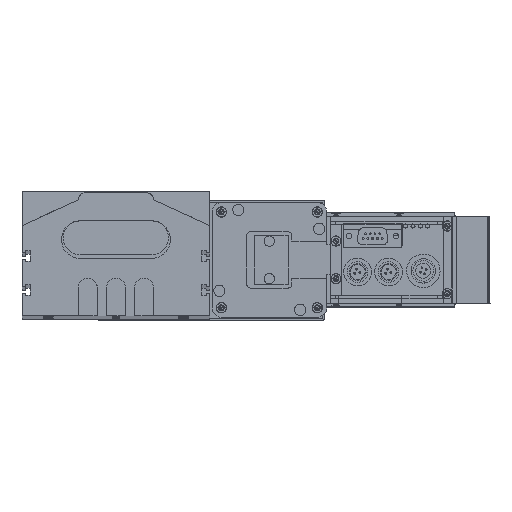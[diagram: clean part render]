
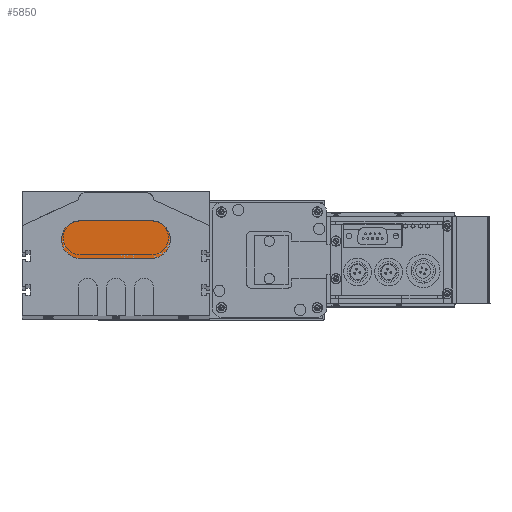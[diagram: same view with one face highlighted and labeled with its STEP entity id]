
A CAD part, top view. The second image highlights one B-rep face of the part: STEP entity #5850.
In plain terms, the highlighted planar face has unit normal (0, 0, 1).
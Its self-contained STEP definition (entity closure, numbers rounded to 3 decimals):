
#5765 = EDGE_CURVE ( 'NONE', #5834, #5817, #18186, .T. ) ;
#5817 = VERTEX_POINT ( 'NONE', #18200 ) ;
#5834 = VERTEX_POINT ( 'NONE', #18187 ) ;
#5839 = EDGE_CURVE ( 'NONE', #5817, #5843, #18242, .T. ) ;
#5843 = VERTEX_POINT ( 'NONE', #18232 ) ;
#5850 = ADVANCED_FACE ( 'NONE', ( #18243 ), #18223, .T. ) ;
#5851 = ORIENTED_EDGE ( 'NONE', *, *, #5865, .T. ) ;
#5854 = ORIENTED_EDGE ( 'NONE', *, *, #5765, .T. ) ;
#5858 = ORIENTED_EDGE ( 'NONE', *, *, #5877, .T. ) ;
#5863 = EDGE_CURVE ( 'NONE', #37558, #5884, #18287, .T. ) ;
#5865 = EDGE_CURVE ( 'NONE', #5884, #5834, #18275, .T. ) ;
#5876 = EDGE_LOOP ( 'NONE', ( #5854, #5927, #5858, #5880, #5851 ) ) ;
#5877 = EDGE_CURVE ( 'NONE', #5843, #37558, #18259, .T. ) ;
#5880 = ORIENTED_EDGE ( 'NONE', *, *, #5863, .T. ) ;
#5884 = VERTEX_POINT ( 'NONE', #18320 ) ;
#5927 = ORIENTED_EDGE ( 'NONE', *, *, #5839, .T. ) ;
#16330 = VECTOR ( 'NONE', #16875, 1000. ) ;
#16875 = DIRECTION ( 'NONE',  ( 1., 0., 0. ) ) ;
#18165 = DIRECTION ( 'NONE',  ( 1., 0., 0. ) ) ;
#18166 = DIRECTION ( 'NONE',  ( 0., 0., 1. ) ) ;
#18169 = AXIS2_PLACEMENT_3D ( 'NONE', #18173, #18166, #18165 ) ;
#18173 = CARTESIAN_POINT ( 'NONE',  ( 0., 10., 10. ) ) ;
#18186 = CIRCLE ( 'NONE', #18169, 10. ) ;
#18187 = CARTESIAN_POINT ( 'NONE',  ( 0., 20., 10. ) ) ;
#18200 = CARTESIAN_POINT ( 'NONE',  ( -10., 10., 10. ) ) ;
#18215 = DIRECTION ( 'NONE',  ( 1., 0., 0. ) ) ;
#18216 = DIRECTION ( 'NONE',  ( 0., 0., 1. ) ) ;
#18223 = PLANE ( 'NONE',  #18241 ) ;
#18224 = CARTESIAN_POINT ( 'NONE',  ( 0., 10., 10. ) ) ;
#18232 = CARTESIAN_POINT ( 'NONE',  ( 0., 0., 10. ) ) ;
#18235 = DIRECTION ( 'NONE',  ( 1., 0., 0. ) ) ;
#18237 = DIRECTION ( 'NONE',  ( 0., 0., 1. ) ) ;
#18238 = CARTESIAN_POINT ( 'NONE',  ( 0., 10., 10. ) ) ;
#18239 = AXIS2_PLACEMENT_3D ( 'NONE', #18238, #18237, #18235 ) ;
#18241 = AXIS2_PLACEMENT_3D ( 'NONE', #18224, #18216, #18215 ) ;
#18242 = CIRCLE ( 'NONE', #18239, 10. ) ;
#18243 = FACE_OUTER_BOUND ( 'NONE', #5876, .T. ) ;
#18246 = CARTESIAN_POINT ( 'NONE',  ( 38., 10., 10. ) ) ;
#18255 = CARTESIAN_POINT ( 'NONE',  ( 0., 0., 10. ) ) ;
#18259 = LINE ( 'NONE', #18255, #16330 ) ;
#18271 = DIRECTION ( 'NONE',  ( -1., 0., 0. ) ) ;
#18272 = VECTOR ( 'NONE', #18271, 1000. ) ;
#18273 = CARTESIAN_POINT ( 'NONE',  ( 0., 20., 10. ) ) ;
#18275 = LINE ( 'NONE', #18273, #18272 ) ;
#18283 = DIRECTION ( 'NONE',  ( -1., 0., 0. ) ) ;
#18284 = DIRECTION ( 'NONE',  ( 0., 0., 1. ) ) ;
#18287 = CIRCLE ( 'NONE', #18292, 10. ) ;
#18292 = AXIS2_PLACEMENT_3D ( 'NONE', #18246, #18284, #18283 ) ;
#18320 = CARTESIAN_POINT ( 'NONE',  ( 38., 20., 10. ) ) ;
#28775 = CARTESIAN_POINT ( 'NONE',  ( 38., 0., 10. ) ) ;
#37558 = VERTEX_POINT ( 'NONE', #28775 ) ;
